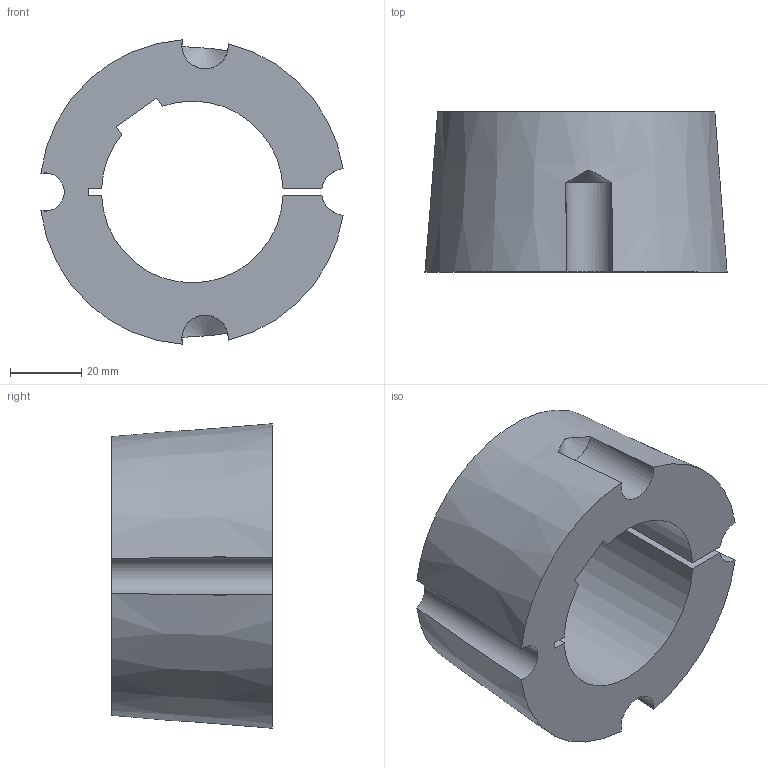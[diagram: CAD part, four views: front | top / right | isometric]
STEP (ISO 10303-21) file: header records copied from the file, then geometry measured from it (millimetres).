
FILE_DESCRIPTION(/* description */ (''),/* implementation_level */ '2;1');
FILE_NAME(/* name */ '\\emc\Varie\PROGETTO SCUOLA\29\BUSSOLE CONICHE-3d\29251750.stp',/* time_stamp */ '2017-12-27T10:43:36+01:00',/* author */ ('stagistacad'),/* organization */ (''),/* preprocessor_version */ 'ST-DEVELOPER v15.6',/* originating_system */ 'Autodesk Inventor 2015',/* authorisation */ '');
FILE_SCHEMA (('AUTOMOTIVE_DESIGN { 1 0 10303 214 3 1 1 }'));
Length unit declared in the file: millimetre
Products named in the file (1): 29251750
Bounding box: 84.83 x 45 x 85.47 mm (x, y, z)
Volume: 135940.6 mm3; surface area: 27123.3 mm2
Topology: 1 solids, 1 shells, 22 faces, 60 edges, 40 vertices
Faces by surface type: plane 10, cylinder 8, cone 4
Entity records: 804 total; most frequent: CARTESIAN_POINT 217, ORIENTED_EDGE 120, DIRECTION 118, EDGE_CURVE 60, AXIS2_PLACEMENT_3D 45, VERTEX_POINT 40, LINE 28, VECTOR 28
